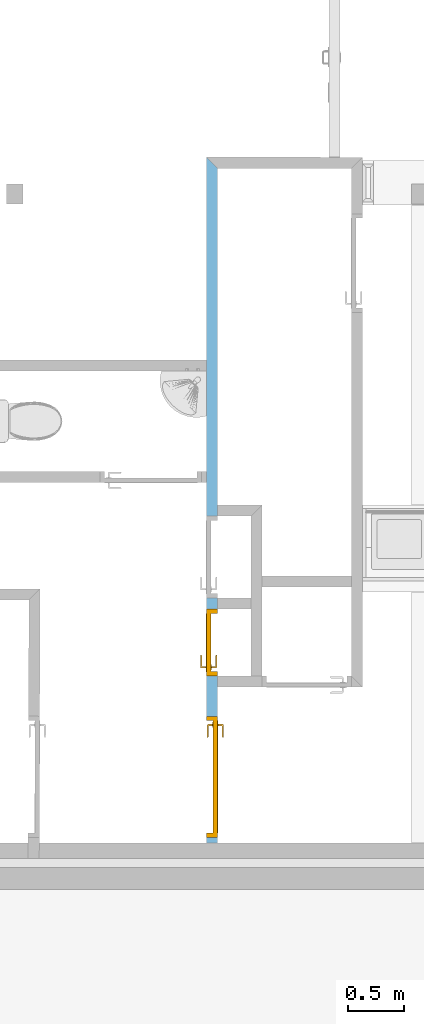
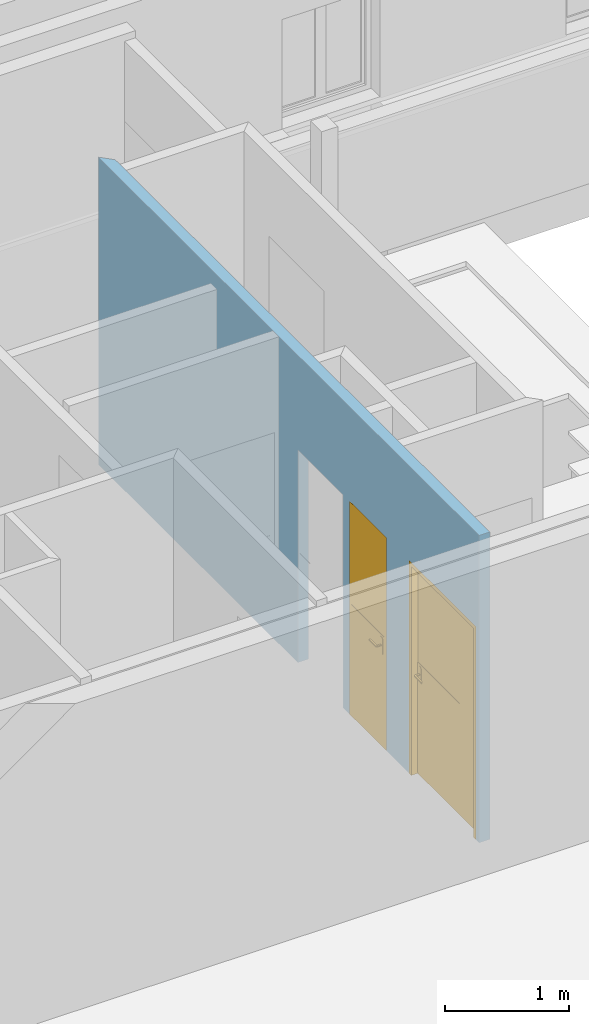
# One storey, part 20 of 34: 2 doors, 3 openings, plus 1 element that does not belong to this part.
"""IFC2X3 building model written with IfcOpenShell, lengths in metres."""

from ifc_helpers import new_model, entity, si_unit, converted_unit, derived_unit, money_unit, direction, frame, origin_with_axes, origin_2d_with_axis, place, context, subcontext, project, spatial, polyline, rectangle, outline, extrude, faceted_brep, material, layer, layer_set, layer_usage, type_object, element, fill, save


model = new_model("IFC2X3")

# Units and contexts
model_context = context("Model", 3, precision=1e-05, world=origin_with_axes(), true_north=direction((0.0, 1.0)))
body_context = subcontext(model_context, "Body", "Model", "MODEL_VIEW")
ifc_project = project(units=[si_unit("LENGTHUNIT", "METRE"), si_unit("AREAUNIT", "SQUARE_METRE"), si_unit("VOLUMEUNIT", "CUBIC_METRE"), converted_unit("PLANEANGLEUNIT", "DEGREE", entity("IfcPlaneAngleMeasure", 0.0174532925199), si_unit("PLANEANGLEUNIT", "RADIAN"), dimensions=[0, 0, 0, 0, 0, 0, 0]), money_unit("CHF"), converted_unit("TIMEUNIT", "Year", entity("IfcTimeMeasure", 31556926.0), si_unit("TIMEUNIT", "SECOND"), dimensions=[0, 0, 1, 0, 0, 0, 0]), si_unit("MASSUNIT", "GRAM", prefix="KILO"), si_unit("THERMODYNAMICTEMPERATUREUNIT", "DEGREE_CELSIUS"), si_unit("LUMINOUSINTENSITYUNIT", "LUMEN"), si_unit("ENERGYUNIT", "JOULE", prefix="MEGA"), derived_unit("THERMALCONDUCTANCEUNIT", [(si_unit("POWERUNIT", "WATT"), 1), (si_unit("LENGTHUNIT", "METRE"), -1), (si_unit("THERMODYNAMICTEMPERATUREUNIT", "KELVIN"), -1)]), derived_unit("SPECIFICHEATCAPACITYUNIT", [(si_unit("ENERGYUNIT", "JOULE"), 1), (si_unit("MASSUNIT", "GRAM", prefix="KILO"), -1), (si_unit("THERMODYNAMICTEMPERATUREUNIT", "KELVIN"), -1)]), derived_unit("MASSDENSITYUNIT", [(si_unit("MASSUNIT", "GRAM", prefix="KILO"), 1), (si_unit("VOLUMEUNIT", "CUBIC_METRE"), -1)])], contexts=[model_context])

# Site, building, storey
site_placement = place(None, origin_with_axes())
site = spatial("IfcSite", under=ifc_project, at=site_placement, Name="Site", CompositionType="ELEMENT")
building_placement = place(site_placement, origin_with_axes())
building = spatial("IfcBuilding", under=site, at=building_placement, Name="Bâtiment", CompositionType="ELEMENT")
storey_placement = place(building_placement, origin_with_axes())
storey = spatial("IfcBuildingStorey", under=building, at=storey_placement, Name="RDC", CompositionType="ELEMENT", Elevation=-5.32907e-15)

# Wall, openings, doors
ifc_material_1 = material(Name="Plâtre lissé 291446788")
ifc_layer_1 = layer(ifc_material_1, 0.015, ventilated="UNKNOWN")
ifc_material_2 = material(Name="Isolation laine de pierre 307970822")
ifc_layer_2 = layer(ifc_material_2, 0.07, ventilated="UNKNOWN")
ifc_layer_3 = layer(ifc_material_1, 0.015, ventilated="UNKNOWN")
ifc_layer_set = layer_set([ifc_layer_1, ifc_layer_2, ifc_layer_3], Name="CLOISON 10 ROUGE")
ifc_layer_usage = layer_usage(ifc_layer_set, "AXIS2", "POSITIVE", 0.0)
wall_type = type_object("IfcWallType", Name="CLOISON 10 ROUGE 100", PredefinedType="NOTDEFINED")
wall_placement = place(storey_placement, frame((1673.19089582, 182.47004191, 0.47), z_axis=(0.0, 0.0, 1.0), x_axis=(0.0, 1.0, 0.0)))
wall = element("IfcWallStandardCase", 1, at=wall_placement, inside=storey, type_object=wall_type, material=ifc_layer_usage, Name="Mur-010", context=body_context, shape_type="SweptSolid", body=[
    extrude(outline(polyline([(0.0, 0.0), (6.05103281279, 0.0), (6.15112675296, 0.1), (0.0, 0.1), (0.0, 0.0)])), origin_with_axes(), (0.0, 0.0, 1.0), 3.03000008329),
])
opening_1_placement = place(wall_placement, frame((0.592679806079, 0.0, 0.0), z_axis=(0.0, 0.0, 1.0), x_axis=(1.0, 0.0, 0.0)))
opening_1 = element("IfcOpeningElement", 2, at=opening_1_placement, cuts=wall, Name="Por-004", context=body_context, shape_type="SweptSolid", body=[
    extrude(rectangle(XDim=1.086, YDim=2.1, at=origin_2d_with_axis()), frame((0.0, 0.1, 1.05), z_axis=(0.0, -1.0, 0.0), x_axis=(-1.0, 0.0, 0.0)), (0.0, 0.0, 1.0), 0.3),
])
opening_2_placement = place(wall_placement, frame((1.796, 0.0, 0.0), z_axis=(0.0, 0.0, 1.0), x_axis=(1.0, 0.0, 0.0)))
opening_2 = element("IfcOpeningElement", 3, at=opening_2_placement, cuts=wall, Name="Por-006", context=body_context, shape_type="SweptSolid", body=[
    extrude(rectangle(XDim=0.6, YDim=2.1, at=origin_2d_with_axis()), frame((0.0, 0.1, 1.05), z_axis=(0.0, -1.0, 0.0), x_axis=(1.0, 0.0, 0.0)), (0.0, 0.0, 1.0), 0.3),
])
opening_3_placement = place(wall_placement, frame((2.56298368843, 0.0, 0.0), z_axis=(0.0, 0.0, 1.0), x_axis=(1.0, 0.0, 0.0)))
element("IfcOpeningElement", 4, at=opening_3_placement, cuts=wall, Name="Por-006", context=body_context, shape_type="SweptSolid", body=[
    extrude(rectangle(XDim=0.733967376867, YDim=2.1, at=origin_2d_with_axis()), frame((0.0, 0.1, 1.05), z_axis=(0.0, -1.0, 0.0), x_axis=(1.0, 0.0, 0.0)), (0.0, 0.0, 1.0), 0.3),
])
door_style_1 = type_object("IfcDoorStyle", Name="Porte 25", ConstructionType="NOTDEFINED", OperationType="SINGLE_SWING_RIGHT", ParameterTakesPrecedence=False, Sizeable=False)
door_1_placement = place(opening_1_placement, frame((0.515, 0.0, 0.0), z_axis=(0.0, 0.0, 1.0), x_axis=(-1.0, 0.0, 0.0)))
door_1 = element("IfcDoor", 5, at=door_1_placement, inside=storey, type_object=door_style_1, Name="Por-004", OverallHeight=2.1, OverallWidth=1.086, context=body_context, shape_type="Brep", body=[
    faceted_brep([(0.012, -0.04, 0.0), (0.012, -0.04, 2.06), (0.012, -0.1, 2.06), (0.012, -0.1, 0.0), (0.0, -0.04, 2.06), (0.0, -0.04, 0.0), (0.0, 0.0, 2.06), (-0.028, 0.0, 2.06), (-0.028, -0.1, 2.06), (-0.028, -0.1, 0.0), (-0.028, 0.0, 0.0), (0.0, 0.0, 0.0)], [[[0, 1, 2, 3]], [[4, 1, 0, 5]], [[4, 6, 7, 8, 2, 1]], [[3, 2, 8, 9]], [[5, 0, 3, 9, 10, 11]], [[6, 4, 5, 11]], [[6, 11, 10, 7]], [[10, 9, 8, 7]]]),
    faceted_brep([(1.03, -0.04, 2.06), (1.018, -0.04, 2.06), (1.018, -0.1, 2.06), (1.058, -0.1, 2.06), (1.058, 0.0, 2.06), (1.03, 0.0, 2.06), (1.03, -0.04, 0.0), (1.018, -0.04, 0.0), (1.018, -0.1, 0.0), (1.058, -0.1, 0.0), (1.058, 0.0, 0.0), (1.03, 0.0, 0.0)], [[[0, 1, 2, 3, 4, 5]], [[1, 0, 6, 7]], [[1, 7, 8, 2]], [[3, 2, 8, 9]], [[4, 3, 9, 10]], [[11, 5, 4, 10]], [[0, 5, 11, 6]], [[6, 11, 10, 9, 8, 7]]]),
    faceted_brep([(0.0, 0.0, 2.072), (0.0, 0.0, 2.06), (-0.028, 0.0, 2.06), (-0.028, 0.0, 2.1), (1.058, 0.0, 2.1), (1.058, 0.0, 2.06), (1.03, 0.0, 2.06), (1.03, 0.0, 2.072), (0.0, -0.04, 2.072), (0.0, -0.04, 2.06), (0.012, -0.04, 2.06), (0.012, -0.1, 2.06), (-0.028, -0.1, 2.06), (-0.028, -0.1, 2.1), (1.058, -0.1, 2.1), (1.058, -0.1, 2.06), (1.03, -0.04, 2.06), (1.018, -0.1, 2.06), (1.018, -0.04, 2.06), (1.03, -0.04, 2.072)], [[[0, 1, 2, 3, 4, 5, 6, 7]], [[1, 0, 8, 9]], [[9, 10, 11, 12, 2, 1]], [[2, 12, 13, 3]], [[3, 13, 14, 4]], [[4, 14, 15, 5]], [[16, 6, 5, 15, 17, 18]], [[7, 6, 16, 19]], [[0, 7, 19, 8]], [[16, 18, 10, 9, 8, 19]], [[10, 18, 17, 11]], [[17, 15, 14, 13, 12, 11]]]),
    faceted_brep([(0.025, -0.04, 0.93), (0.0269030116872, -0.04, 0.920432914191), (0.0269030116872, -0.045, 0.920432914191), (0.025, -0.045, 0.93), (0.025, -0.04, 1.055), (0.0269030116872, -0.04, 1.06456708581), (0.0323223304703, -0.04, 1.07267766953), (0.0404329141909, -0.04, 1.07809698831), (0.05, -0.04, 1.08), (0.0595670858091, -0.04, 1.07809698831), (0.0676776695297, -0.04, 1.07267766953), (0.0730969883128, -0.04, 1.06456708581), (0.075, -0.04, 1.055), (0.075, -0.04, 0.93), (0.0730969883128, -0.04, 0.920432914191), (0.0676776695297, -0.04, 0.91232233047), (0.0595670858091, -0.04, 0.906903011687), (0.05, -0.04, 0.905), (0.0404329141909, -0.04, 0.906903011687), (0.0323223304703, -0.04, 0.91232233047), (0.0323223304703, -0.045, 0.91232233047), (0.0404329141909, -0.045, 0.906903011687), (0.05, -0.045, 0.905), (0.0595670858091, -0.045, 0.906903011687), (0.0676776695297, -0.045, 0.91232233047), (0.0730969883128, -0.045, 0.920432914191), (0.075, -0.045, 0.93), (0.075, -0.045, 1.055), (0.0730969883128, -0.045, 1.06456708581), (0.0676776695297, -0.045, 1.07267766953), (0.0595670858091, -0.045, 1.07809698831), (0.05, -0.045, 1.08), (0.0404329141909, -0.045, 1.07809698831), (0.0323223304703, -0.045, 1.07267766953), (0.0269030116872, -0.045, 1.06456708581), (0.025, -0.045, 1.055)], [[[0, 1, 2, 3]], [[0, 4, 5, 6, 7, 8, 9, 10, 11, 12, 13, 14, 15, 16, 17, 18, 19, 1]], [[1, 19, 20, 2]], [[3, 2, 20, 21, 22, 23, 24, 25, 26, 27, 28, 29, 30, 31, 32, 33, 34, 35]], [[4, 0, 3, 35]], [[5, 4, 35, 34]], [[6, 5, 34, 33]], [[7, 6, 33, 32]], [[8, 7, 32, 31]], [[9, 8, 31, 30]], [[10, 9, 30, 29]], [[11, 10, 29, 28]], [[12, 11, 28, 27]], [[13, 12, 27, 26]], [[14, 13, 26, 25]], [[15, 14, 25, 24]], [[16, 15, 24, 23]], [[17, 16, 23, 22]], [[18, 17, 22, 21]], [[19, 18, 21, 20]]]),
    faceted_brep([(0.0575, -0.045, 1.005), (0.0575, -0.075, 1.005), (0.0575, -0.075, 0.995), (0.0575, -0.045, 0.995), (0.0425, -0.045, 1.005), (0.0425, -0.082, 1.005), (0.0434895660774, -0.0869748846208, 1.005), (0.0463076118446, -0.0911923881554, 1.005), (0.0505251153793, -0.0940104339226, 1.005), (0.0555, -0.095, 1.005), (0.1625, -0.095, 1.005), (0.1625, -0.093, 1.005), (0.161510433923, -0.0880251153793, 1.005), (0.158692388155, -0.0838076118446, 1.005), (0.154474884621, -0.0809895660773, 1.005), (0.1495, -0.08, 1.005), (0.0625, -0.08, 1.005), (0.0605865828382, -0.0796193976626, 1.005), (0.0589644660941, -0.0785355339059, 1.005), (0.0578806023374, -0.0769134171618, 1.005), (0.0578806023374, -0.0769134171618, 0.995), (0.0589644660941, -0.0785355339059, 0.995), (0.0605865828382, -0.0796193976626, 0.995), (0.0625, -0.08, 0.995), (0.1495, -0.08, 0.995), (0.154474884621, -0.0809895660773, 0.995), (0.158692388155, -0.0838076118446, 0.995), (0.161510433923, -0.0880251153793, 0.995), (0.1625, -0.093, 0.995), (0.1625, -0.095, 0.995), (0.0555, -0.095, 0.995), (0.0505251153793, -0.0940104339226, 0.995), (0.0463076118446, -0.0911923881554, 0.995), (0.0434895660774, -0.0869748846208, 0.995), (0.0425, -0.082, 0.995), (0.0425, -0.045, 0.995)], [[[0, 1, 2, 3]], [[0, 4, 5, 6, 7, 8, 9, 10, 11, 12, 13, 14, 15, 16, 17, 18, 19, 1]], [[1, 19, 20, 2]], [[3, 2, 20, 21, 22, 23, 24, 25, 26, 27, 28, 29, 30, 31, 32, 33, 34, 35]], [[4, 0, 3, 35]], [[5, 4, 35, 34]], [[6, 5, 34, 33]], [[7, 6, 33, 32]], [[8, 7, 32, 31]], [[9, 8, 31, 30]], [[10, 9, 30, 29]], [[11, 10, 29, 28]], [[12, 11, 28, 27]], [[13, 12, 27, 26]], [[14, 13, 26, 25]], [[15, 14, 25, 24]], [[16, 15, 24, 23]], [[17, 16, 23, 22]], [[18, 17, 22, 21]], [[19, 18, 21, 20]]]),
    faceted_brep([(0.025, 0.0, 0.93), (0.025, 0.005, 0.93), (0.0269030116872, 0.005, 0.920432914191), (0.0269030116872, 0.0, 0.920432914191), (0.025, 0.0, 1.055), (0.025, 0.005, 1.055), (0.0269030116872, 0.005, 1.06456708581), (0.0323223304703, 0.005, 1.07267766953), (0.0404329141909, 0.005, 1.07809698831), (0.05, 0.005, 1.08), (0.0595670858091, 0.005, 1.07809698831), (0.0676776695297, 0.005, 1.07267766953), (0.0730969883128, 0.005, 1.06456708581), (0.075, 0.005, 1.055), (0.075, 0.005, 0.93), (0.0730969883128, 0.005, 0.920432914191), (0.0676776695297, 0.005, 0.91232233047), (0.0595670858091, 0.005, 0.906903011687), (0.05, 0.005, 0.905), (0.0404329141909, 0.005, 0.906903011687), (0.0323223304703, 0.005, 0.91232233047), (0.0323223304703, 0.0, 0.91232233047), (0.0404329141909, 0.0, 0.906903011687), (0.05, 0.0, 0.905), (0.0595670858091, 0.0, 0.906903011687), (0.0676776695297, 0.0, 0.91232233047), (0.0730969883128, 0.0, 0.920432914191), (0.075, 0.0, 0.93), (0.075, 0.0, 1.055), (0.0730969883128, 0.0, 1.06456708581), (0.0676776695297, 0.0, 1.07267766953), (0.0595670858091, 0.0, 1.07809698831), (0.05, 0.0, 1.08), (0.0404329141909, 0.0, 1.07809698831), (0.0323223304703, 0.0, 1.07267766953), (0.0269030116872, 0.0, 1.06456708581)], [[[0, 1, 2, 3]], [[4, 5, 1, 0]], [[1, 5, 6, 7, 8, 9, 10, 11, 12, 13, 14, 15, 16, 17, 18, 19, 20, 2]], [[3, 2, 20, 21]], [[0, 3, 21, 22, 23, 24, 25, 26, 27, 28, 29, 30, 31, 32, 33, 34, 35, 4]], [[35, 6, 5, 4]], [[34, 7, 6, 35]], [[33, 8, 7, 34]], [[32, 9, 8, 33]], [[31, 10, 9, 32]], [[30, 11, 10, 31]], [[29, 12, 11, 30]], [[28, 13, 12, 29]], [[27, 14, 13, 28]], [[26, 15, 14, 27]], [[25, 16, 15, 26]], [[24, 17, 16, 25]], [[23, 18, 17, 24]], [[22, 19, 18, 23]], [[21, 20, 19, 22]]]),
    faceted_brep([(0.0575, 0.005, 1.005), (0.0575, 0.005, 0.995), (0.0575, 0.035, 0.995), (0.0575, 0.035, 1.005), (0.0425, 0.005, 1.005), (0.0425, 0.005, 0.995), (0.0425, 0.042, 0.995), (0.0434895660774, 0.0469748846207, 0.995), (0.0463076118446, 0.0511923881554, 0.995), (0.0505251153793, 0.0540104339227, 0.995), (0.0555, 0.055, 0.995), (0.1625, 0.055, 0.995), (0.1625, 0.053, 0.995), (0.161510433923, 0.0480251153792, 0.995), (0.158692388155, 0.0438076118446, 0.995), (0.154474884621, 0.0409895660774, 0.995), (0.1495, 0.04, 0.995), (0.0625, 0.04, 0.995), (0.0605865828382, 0.0396193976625, 0.995), (0.0589644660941, 0.0385355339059, 0.995), (0.0578806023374, 0.0369134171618, 0.995), (0.0578806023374, 0.0369134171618, 1.005), (0.0589644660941, 0.0385355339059, 1.005), (0.0605865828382, 0.0396193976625, 1.005), (0.0625, 0.04, 1.005), (0.1495, 0.04, 1.005), (0.154474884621, 0.0409895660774, 1.005), (0.158692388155, 0.0438076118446, 1.005), (0.161510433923, 0.0480251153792, 1.005), (0.1625, 0.053, 1.005), (0.1625, 0.055, 1.005), (0.0555, 0.055, 1.005), (0.0505251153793, 0.0540104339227, 1.005), (0.0463076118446, 0.0511923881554, 1.005), (0.0434895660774, 0.0469748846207, 1.005), (0.0425, 0.042, 1.005)], [[[0, 1, 2, 3]], [[4, 5, 1, 0]], [[1, 5, 6, 7, 8, 9, 10, 11, 12, 13, 14, 15, 16, 17, 18, 19, 20, 2]], [[3, 2, 20, 21]], [[0, 3, 21, 22, 23, 24, 25, 26, 27, 28, 29, 30, 31, 32, 33, 34, 35, 4]], [[35, 6, 5, 4]], [[34, 7, 6, 35]], [[33, 8, 7, 34]], [[32, 9, 8, 33]], [[31, 10, 9, 32]], [[30, 11, 10, 31]], [[29, 12, 11, 30]], [[28, 13, 12, 29]], [[27, 14, 13, 28]], [[26, 15, 14, 27]], [[25, 16, 15, 26]], [[24, 17, 16, 25]], [[23, 18, 17, 24]], [[22, 19, 18, 23]], [[21, 20, 19, 22]]]),
    faceted_brep([(1.02, 0.00200000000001, 0.01), (1.02, 0.0, 0.01), (0.01, 0.0, 0.01), (0.01, 0.00200000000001, 0.01), (1.02, 0.00200000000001, 1.1), (1.02, 0.0, 1.1), (0.01, 0.0, 1.1), (0.01, 0.00200000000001, 1.1)], [[[0, 1, 2, 3]], [[4, 5, 1, 0]], [[1, 5, 6, 2]], [[3, 2, 6, 7]], [[0, 3, 7, 4]], [[7, 6, 5, 4]]]),
    faceted_brep([(1.02, -0.04, 0.01), (1.02, -0.042, 0.01), (0.01, -0.042, 0.01), (0.01, -0.04, 0.01), (1.02, -0.04, 1.1), (1.02, -0.042, 1.1), (0.01, -0.042, 1.1), (0.01, -0.04, 1.1)], [[[0, 1, 2, 3]], [[4, 5, 1, 0]], [[1, 5, 6, 2]], [[3, 2, 6, 7]], [[0, 3, 7, 4]], [[7, 6, 5, 4]]]),
    faceted_brep([(1.03, 0.0, 0.0), (1.03, -0.04, 0.0), (0.0, -0.04, 0.0), (0.0, 0.0, 0.0), (1.03, 0.0, 2.072), (1.03, -0.04, 2.072), (0.0, -0.04, 2.072), (0.0, 0.0, 2.072)], [[[0, 1, 2, 3]], [[4, 5, 1, 0]], [[1, 5, 6, 2]], [[3, 2, 6, 7]], [[0, 3, 7, 4]], [[7, 6, 5, 4]]]),
])
fill(opening_1, door_1)
door_style_2 = type_object("IfcDoorStyle", Name="Porte 25", ConstructionType="NOTDEFINED", OperationType="SINGLE_SWING_RIGHT", ParameterTakesPrecedence=False, Sizeable=False)
door_2_placement = place(opening_2_placement, frame((-0.272, 0.0, 0.0), z_axis=(0.0, 0.0, 1.0), x_axis=(1.0, 0.0, 0.0)))
door_2 = element("IfcDoor", 6, at=door_2_placement, inside=storey, type_object=door_style_2, Name="Por-006", OverallHeight=2.1, OverallWidth=0.6, context=body_context, shape_type="Brep", body=[
    faceted_brep([(0.012, 0.06, 0.0), (0.012, 0.06, 2.06), (0.012, 0.0, 2.06), (0.012, 0.0, 0.0), (0.0, 0.06, 2.06), (0.0, 0.06, 0.0), (0.0, 0.1, 2.06), (-0.028, 0.1, 2.06), (-0.028, 0.0, 2.06), (-0.028, 0.0, 0.0), (-0.028, 0.1, 0.0), (0.0, 0.1, 0.0)], [[[0, 1, 2, 3]], [[4, 1, 0, 5]], [[4, 6, 7, 8, 2, 1]], [[3, 2, 8, 9]], [[5, 0, 3, 9, 10, 11]], [[6, 4, 5, 11]], [[6, 11, 10, 7]], [[10, 9, 8, 7]]]),
    faceted_brep([(0.544, 0.06, 2.06), (0.532, 0.06, 2.06), (0.532, 0.0, 2.06), (0.572, 0.0, 2.06), (0.572, 0.1, 2.06), (0.544, 0.1, 2.06), (0.544, 0.06, 0.0), (0.532, 0.06, 0.0), (0.532, 0.0, 0.0), (0.572, 0.0, 0.0), (0.572, 0.1, 0.0), (0.544, 0.1, 0.0)], [[[0, 1, 2, 3, 4, 5]], [[1, 0, 6, 7]], [[1, 7, 8, 2]], [[3, 2, 8, 9]], [[4, 3, 9, 10]], [[11, 5, 4, 10]], [[0, 5, 11, 6]], [[6, 11, 10, 9, 8, 7]]]),
    faceted_brep([(0.0, 0.1, 2.072), (0.0, 0.1, 2.06), (-0.028, 0.1, 2.06), (-0.028, 0.1, 2.1), (0.572, 0.1, 2.1), (0.572, 0.1, 2.06), (0.544, 0.1, 2.06), (0.544, 0.1, 2.072), (0.0, 0.06, 2.072), (0.0, 0.06, 2.06), (0.012, 0.06, 2.06), (0.012, 0.0, 2.06), (-0.028, 0.0, 2.06), (-0.028, 0.0, 2.1), (0.572, 0.0, 2.1), (0.572, 0.0, 2.06), (0.544, 0.06, 2.06), (0.532, 0.0, 2.06), (0.532, 0.06, 2.06), (0.544, 0.06, 2.072)], [[[0, 1, 2, 3, 4, 5, 6, 7]], [[1, 0, 8, 9]], [[9, 10, 11, 12, 2, 1]], [[2, 12, 13, 3]], [[3, 13, 14, 4]], [[4, 14, 15, 5]], [[16, 6, 5, 15, 17, 18]], [[7, 6, 16, 19]], [[0, 7, 19, 8]], [[16, 18, 10, 9, 8, 19]], [[10, 18, 17, 11]], [[17, 15, 14, 13, 12, 11]]]),
    faceted_brep([(0.025, 0.06, 0.93), (0.0269030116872, 0.06, 0.920432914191), (0.0269030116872, 0.055, 0.920432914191), (0.025, 0.055, 0.93), (0.025, 0.06, 1.055), (0.0269030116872, 0.06, 1.06456708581), (0.0323223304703, 0.06, 1.07267766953), (0.0404329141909, 0.06, 1.07809698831), (0.05, 0.06, 1.08), (0.0595670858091, 0.06, 1.07809698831), (0.0676776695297, 0.06, 1.07267766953), (0.0730969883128, 0.06, 1.06456708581), (0.075, 0.06, 1.055), (0.075, 0.06, 0.93), (0.0730969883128, 0.06, 0.920432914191), (0.0676776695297, 0.06, 0.91232233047), (0.0595670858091, 0.06, 0.906903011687), (0.05, 0.06, 0.905), (0.0404329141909, 0.06, 0.906903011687), (0.0323223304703, 0.06, 0.91232233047), (0.0323223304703, 0.055, 0.91232233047), (0.0404329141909, 0.055, 0.906903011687), (0.05, 0.055, 0.905), (0.0595670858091, 0.055, 0.906903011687), (0.0676776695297, 0.055, 0.91232233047), (0.0730969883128, 0.055, 0.920432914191), (0.075, 0.055, 0.93), (0.075, 0.055, 1.055), (0.0730969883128, 0.055, 1.06456708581), (0.0676776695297, 0.055, 1.07267766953), (0.0595670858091, 0.055, 1.07809698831), (0.05, 0.055, 1.08), (0.0404329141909, 0.055, 1.07809698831), (0.0323223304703, 0.055, 1.07267766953), (0.0269030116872, 0.055, 1.06456708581), (0.025, 0.055, 1.055)], [[[0, 1, 2, 3]], [[0, 4, 5, 6, 7, 8, 9, 10, 11, 12, 13, 14, 15, 16, 17, 18, 19, 1]], [[1, 19, 20, 2]], [[3, 2, 20, 21, 22, 23, 24, 25, 26, 27, 28, 29, 30, 31, 32, 33, 34, 35]], [[4, 0, 3, 35]], [[5, 4, 35, 34]], [[6, 5, 34, 33]], [[7, 6, 33, 32]], [[8, 7, 32, 31]], [[9, 8, 31, 30]], [[10, 9, 30, 29]], [[11, 10, 29, 28]], [[12, 11, 28, 27]], [[13, 12, 27, 26]], [[14, 13, 26, 25]], [[15, 14, 25, 24]], [[16, 15, 24, 23]], [[17, 16, 23, 22]], [[18, 17, 22, 21]], [[19, 18, 21, 20]]]),
    faceted_brep([(0.0575, 0.055, 1.005), (0.0575, 0.025, 1.005), (0.0575, 0.025, 0.995), (0.0575, 0.055, 0.995), (0.0425, 0.055, 1.005), (0.0425, 0.018, 1.005), (0.0434895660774, 0.0130251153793, 1.005), (0.0463076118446, 0.00880761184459, 1.005), (0.0505251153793, 0.0059895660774, 1.005), (0.0555, 0.005, 1.005), (0.1625, 0.005, 1.005), (0.1625, 0.00700000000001, 1.005), (0.161510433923, 0.0119748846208, 1.005), (0.158692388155, 0.0161923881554, 1.005), (0.154474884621, 0.0190104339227, 1.005), (0.1495, 0.02, 1.005), (0.0625, 0.02, 1.005), (0.0605865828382, 0.0203806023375, 1.005), (0.0589644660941, 0.0214644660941, 1.005), (0.0578806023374, 0.0230865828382, 1.005), (0.0578806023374, 0.0230865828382, 0.995), (0.0589644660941, 0.0214644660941, 0.995), (0.0605865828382, 0.0203806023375, 0.995), (0.0625, 0.02, 0.995), (0.1495, 0.02, 0.995), (0.154474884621, 0.0190104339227, 0.995), (0.158692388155, 0.0161923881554, 0.995), (0.161510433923, 0.0119748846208, 0.995), (0.1625, 0.00700000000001, 0.995), (0.1625, 0.005, 0.995), (0.0555, 0.005, 0.995), (0.0505251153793, 0.0059895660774, 0.995), (0.0463076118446, 0.00880761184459, 0.995), (0.0434895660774, 0.0130251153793, 0.995), (0.0425, 0.018, 0.995), (0.0425, 0.055, 0.995)], [[[0, 1, 2, 3]], [[0, 4, 5, 6, 7, 8, 9, 10, 11, 12, 13, 14, 15, 16, 17, 18, 19, 1]], [[1, 19, 20, 2]], [[3, 2, 20, 21, 22, 23, 24, 25, 26, 27, 28, 29, 30, 31, 32, 33, 34, 35]], [[4, 0, 3, 35]], [[5, 4, 35, 34]], [[6, 5, 34, 33]], [[7, 6, 33, 32]], [[8, 7, 32, 31]], [[9, 8, 31, 30]], [[10, 9, 30, 29]], [[11, 10, 29, 28]], [[12, 11, 28, 27]], [[13, 12, 27, 26]], [[14, 13, 26, 25]], [[15, 14, 25, 24]], [[16, 15, 24, 23]], [[17, 16, 23, 22]], [[18, 17, 22, 21]], [[19, 18, 21, 20]]]),
    faceted_brep([(0.025, 0.1, 0.93), (0.025, 0.105, 0.93), (0.0269030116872, 0.105, 0.920432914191), (0.0269030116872, 0.1, 0.920432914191), (0.025, 0.1, 1.055), (0.025, 0.105, 1.055), (0.0269030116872, 0.105, 1.06456708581), (0.0323223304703, 0.105, 1.07267766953), (0.0404329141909, 0.105, 1.07809698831), (0.05, 0.105, 1.08), (0.0595670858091, 0.105, 1.07809698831), (0.0676776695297, 0.105, 1.07267766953), (0.0730969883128, 0.105, 1.06456708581), (0.075, 0.105, 1.055), (0.075, 0.105, 0.93), (0.0730969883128, 0.105, 0.920432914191), (0.0676776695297, 0.105, 0.91232233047), (0.0595670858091, 0.105, 0.906903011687), (0.05, 0.105, 0.905), (0.0404329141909, 0.105, 0.906903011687), (0.0323223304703, 0.105, 0.91232233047), (0.0323223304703, 0.1, 0.91232233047), (0.0404329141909, 0.1, 0.906903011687), (0.05, 0.1, 0.905), (0.0595670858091, 0.1, 0.906903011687), (0.0676776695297, 0.1, 0.91232233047), (0.0730969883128, 0.1, 0.920432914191), (0.075, 0.1, 0.93), (0.075, 0.1, 1.055), (0.0730969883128, 0.1, 1.06456708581), (0.0676776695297, 0.1, 1.07267766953), (0.0595670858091, 0.1, 1.07809698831), (0.05, 0.1, 1.08), (0.0404329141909, 0.1, 1.07809698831), (0.0323223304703, 0.1, 1.07267766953), (0.0269030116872, 0.1, 1.06456708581)], [[[0, 1, 2, 3]], [[4, 5, 1, 0]], [[1, 5, 6, 7, 8, 9, 10, 11, 12, 13, 14, 15, 16, 17, 18, 19, 20, 2]], [[3, 2, 20, 21]], [[0, 3, 21, 22, 23, 24, 25, 26, 27, 28, 29, 30, 31, 32, 33, 34, 35, 4]], [[35, 6, 5, 4]], [[34, 7, 6, 35]], [[33, 8, 7, 34]], [[32, 9, 8, 33]], [[31, 10, 9, 32]], [[30, 11, 10, 31]], [[29, 12, 11, 30]], [[28, 13, 12, 29]], [[27, 14, 13, 28]], [[26, 15, 14, 27]], [[25, 16, 15, 26]], [[24, 17, 16, 25]], [[23, 18, 17, 24]], [[22, 19, 18, 23]], [[21, 20, 19, 22]]]),
    faceted_brep([(0.0575, 0.105, 1.005), (0.0575, 0.105, 0.995), (0.0575, 0.135, 0.995), (0.0575, 0.135, 1.005), (0.0425, 0.105, 1.005), (0.0425, 0.105, 0.995), (0.0425, 0.142, 0.995), (0.0434895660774, 0.146974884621, 0.995), (0.0463076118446, 0.151192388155, 0.995), (0.0505251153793, 0.154010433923, 0.995), (0.0555, 0.155, 0.995), (0.1625, 0.155, 0.995), (0.1625, 0.153, 0.995), (0.161510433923, 0.148025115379, 0.995), (0.158692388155, 0.143807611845, 0.995), (0.154474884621, 0.140989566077, 0.995), (0.1495, 0.14, 0.995), (0.0625, 0.14, 0.995), (0.0605865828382, 0.139619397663, 0.995), (0.0589644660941, 0.138535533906, 0.995), (0.0578806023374, 0.136913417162, 0.995), (0.0578806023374, 0.136913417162, 1.005), (0.0589644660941, 0.138535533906, 1.005), (0.0605865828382, 0.139619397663, 1.005), (0.0625, 0.14, 1.005), (0.1495, 0.14, 1.005), (0.154474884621, 0.140989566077, 1.005), (0.158692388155, 0.143807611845, 1.005), (0.161510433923, 0.148025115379, 1.005), (0.1625, 0.153, 1.005), (0.1625, 0.155, 1.005), (0.0555, 0.155, 1.005), (0.0505251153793, 0.154010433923, 1.005), (0.0463076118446, 0.151192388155, 1.005), (0.0434895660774, 0.146974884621, 1.005), (0.0425, 0.142, 1.005)], [[[0, 1, 2, 3]], [[4, 5, 1, 0]], [[1, 5, 6, 7, 8, 9, 10, 11, 12, 13, 14, 15, 16, 17, 18, 19, 20, 2]], [[3, 2, 20, 21]], [[0, 3, 21, 22, 23, 24, 25, 26, 27, 28, 29, 30, 31, 32, 33, 34, 35, 4]], [[35, 6, 5, 4]], [[34, 7, 6, 35]], [[33, 8, 7, 34]], [[32, 9, 8, 33]], [[31, 10, 9, 32]], [[30, 11, 10, 31]], [[29, 12, 11, 30]], [[28, 13, 12, 29]], [[27, 14, 13, 28]], [[26, 15, 14, 27]], [[25, 16, 15, 26]], [[24, 17, 16, 25]], [[23, 18, 17, 24]], [[22, 19, 18, 23]], [[21, 20, 19, 22]]]),
    faceted_brep([(0.534, 0.058, 0.01), (0.01, 0.058, 0.01), (0.01, 0.06, 0.01), (0.534, 0.06, 0.01), (0.534, 0.058, 1.1), (0.01, 0.058, 1.1), (0.01, 0.06, 1.1), (0.534, 0.06, 1.1)], [[[0, 1, 2, 3]], [[0, 4, 5, 1]], [[1, 5, 6, 2]], [[3, 2, 6, 7]], [[4, 0, 3, 7]], [[5, 4, 7, 6]]]),
    faceted_brep([(0.534, 0.1, 0.01), (0.01, 0.1, 0.01), (0.01, 0.102, 0.01), (0.534, 0.102, 0.01), (0.534, 0.1, 1.1), (0.01, 0.1, 1.1), (0.01, 0.102, 1.1), (0.534, 0.102, 1.1)], [[[0, 1, 2, 3]], [[0, 4, 5, 1]], [[1, 5, 6, 2]], [[3, 2, 6, 7]], [[4, 0, 3, 7]], [[5, 4, 7, 6]]]),
    faceted_brep([(0.544, 0.1, 0.0), (0.544, 0.06, 0.0), (0.0, 0.06, 0.0), (0.0, 0.1, 0.0), (0.544, 0.1, 2.072), (0.544, 0.06, 2.072), (0.0, 0.06, 2.072), (0.0, 0.1, 2.072)], [[[0, 1, 2, 3]], [[4, 5, 1, 0]], [[1, 5, 6, 2]], [[3, 2, 6, 7]], [[0, 3, 7, 4]], [[7, 6, 5, 4]]]),
])
fill(opening_2, door_2)

save(model, "model.ifc")
